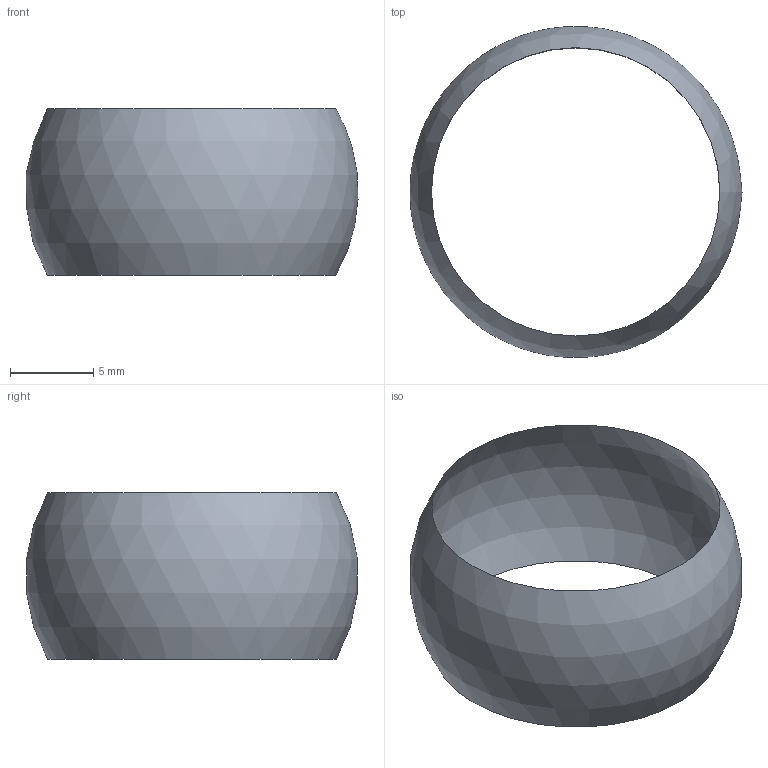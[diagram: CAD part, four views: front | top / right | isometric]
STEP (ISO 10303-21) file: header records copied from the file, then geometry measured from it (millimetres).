
FILE_DESCRIPTION(('BRL-CAD AP214 spherical band inner-bound-first fixture'),'2;1');
FILE_NAME('ap214_spherical_band_inner_first.stp','2026-07-20T00:00:00',('BRL-CAD'),('BRL-CAD'),'','','');
FILE_SCHEMA(('AUTOMOTIVE_DESIGN { 1 0 10303 214 3 1 1 1 }'));
Length unit declared in the file: millimetre
Products named in the file (1): spherical_band
Bounding box: 19.94 x 19.86 x 10 mm (x, y, z)
Surface area: 628.3 mm2 (no closed solid volume)
Topology: 0 solids, 1 shells, 1 faces, 3 edges, 2 vertices
Faces by surface type: sphere 1
Entity records: 37 total; most frequent: CARTESIAN_POINT 5, AXIS2_PLACEMENT_3D 3, DIRECTION 2, VERTEX_POINT 2, CIRCLE 2, EDGE_CURVE 2, ORIENTED_EDGE 2, EDGE_LOOP 2
